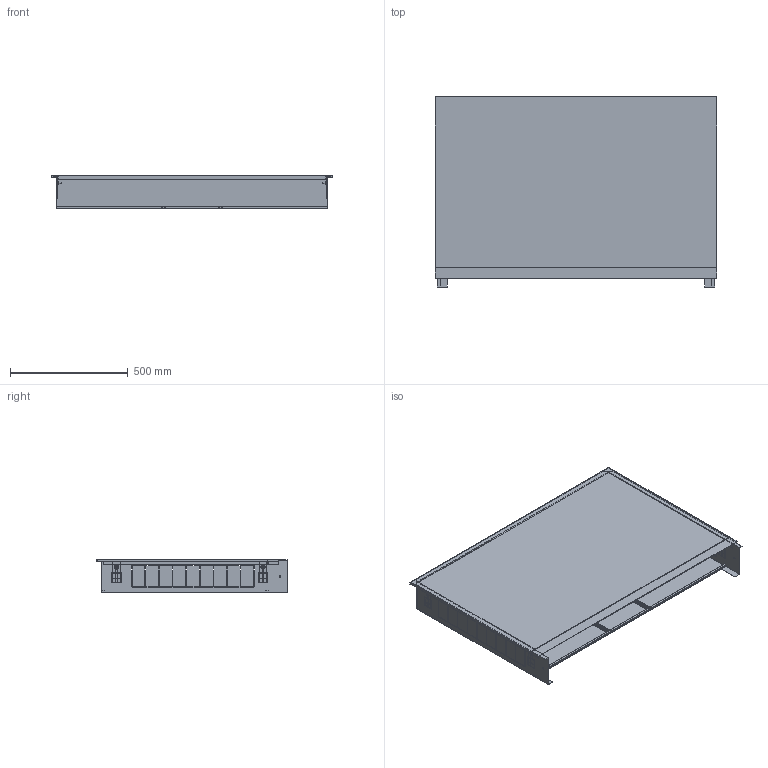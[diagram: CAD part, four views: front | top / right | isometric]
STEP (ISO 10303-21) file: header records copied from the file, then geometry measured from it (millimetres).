
FILE_DESCRIPTION(('STEP AP203'), '1');
FILE_NAME('VTc.540.H.06', '', ('UNSPECIFIED'), ('UNSPECIFIED'), 'C3D Converter', 'C3D Toolkit', '');
FILE_SCHEMA(('CONFIG_CONTROL_DESIGN'));
Length unit declared in the file: millimetre
Products named in the file (1): ВР.301442.010.000 СБ
Bounding box: 1195.6 x 808.3 x 141.3 mm (x, y, z)
Volume: 2466230.8 mm3; surface area: 4635629.5 mm2
Topology: 1 solids, 1 shells, 620 faces, 1750 edges, 1134 vertices
Faces by surface type: plane 514, cone 60, cylinder 42, sphere 4
Full cylindrical faces by diameter (mm): 6 x8, 6.4 x4, 7 x2, 14 x4, 18 x4
Entity records: 21716 total; most frequent: CARTESIAN_POINT 5739, ORIENTED_EDGE 3384, DIRECTION 2998, EDGE_CURVE 1692, LINE 1420, VECTOR 1420, VERTEX_POINT 1122, EDGE_LOOP 810
